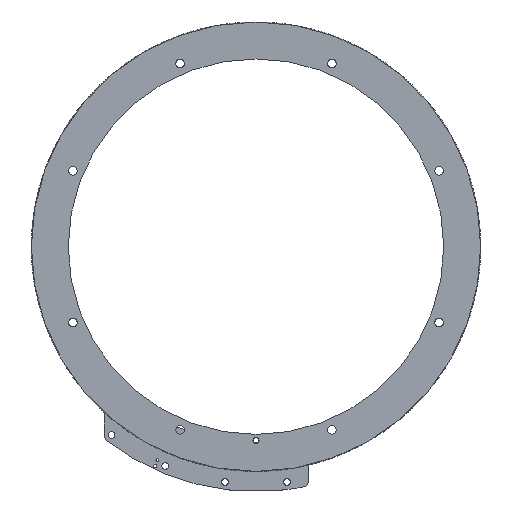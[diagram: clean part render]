
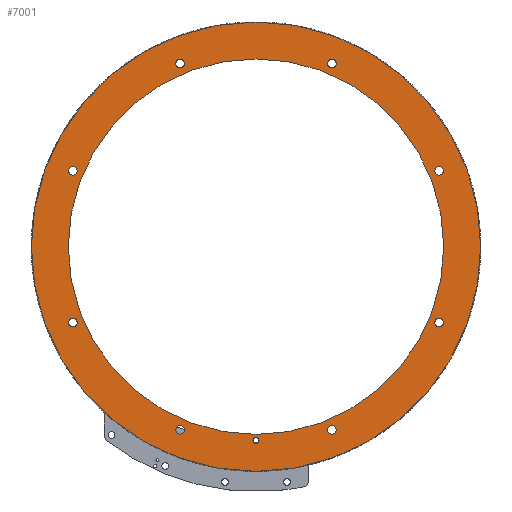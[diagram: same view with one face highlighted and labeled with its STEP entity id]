
A CAD part, front view. The second image highlights one B-rep face of the part: STEP entity #7001.
In plain terms, the highlighted planar face has unit normal (0, -1, 0).
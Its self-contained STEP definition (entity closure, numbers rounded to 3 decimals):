
#2=CARTESIAN_POINT('',(0.,0.,0.));
#3=DIRECTION('',(0.,1.,0.));
#4=DIRECTION('',(1.,0.,0.));
#5=AXIS2_PLACEMENT_3D('',#2,#3,#4);
#7=CARTESIAN_POINT('',(0.,0.,0.));
#8=DIRECTION('',(0.,1.,0.));
#9=DIRECTION('',(-1.,0.,0.));
#10=AXIS2_PLACEMENT_3D('',#7,#8,#9);
#12=CARTESIAN_POINT('',(0.,0.,0.));
#13=DIRECTION('',(0.,-1.,0.));
#14=DIRECTION('',(1.,0.,0.));
#15=AXIS2_PLACEMENT_3D('',#12,#13,#14);
#17=CARTESIAN_POINT('',(0.,0.,0.));
#18=DIRECTION('',(0.,-1.,0.));
#19=DIRECTION('',(-1.,0.,0.));
#20=AXIS2_PLACEMENT_3D('',#17,#18,#19);
#22=CARTESIAN_POINT('',(-60.976,0.,-25.257));
#23=DIRECTION('',(0.,1.,0.));
#24=DIRECTION('',(1.,0.,0.));
#25=AXIS2_PLACEMENT_3D('',#22,#23,#24);
#27=CARTESIAN_POINT('',(-60.976,0.,-25.257));
#28=DIRECTION('',(0.,1.,0.));
#29=DIRECTION('',(-1.,0.,0.));
#30=AXIS2_PLACEMENT_3D('',#27,#28,#29);
#32=CARTESIAN_POINT('',(25.257,0.,-60.976));
#33=DIRECTION('',(0.,1.,0.));
#34=DIRECTION('',(1.,0.,0.));
#35=AXIS2_PLACEMENT_3D('',#32,#33,#34);
#37=CARTESIAN_POINT('',(25.257,0.,-60.976));
#38=DIRECTION('',(0.,1.,0.));
#39=DIRECTION('',(-1.,0.,0.));
#40=AXIS2_PLACEMENT_3D('',#37,#38,#39);
#42=CARTESIAN_POINT('',(60.976,0.,25.257));
#43=DIRECTION('',(0.,1.,0.));
#44=DIRECTION('',(1.,0.,0.));
#45=AXIS2_PLACEMENT_3D('',#42,#43,#44);
#47=CARTESIAN_POINT('',(60.976,0.,25.257));
#48=DIRECTION('',(0.,1.,0.));
#49=DIRECTION('',(-1.,0.,0.));
#50=AXIS2_PLACEMENT_3D('',#47,#48,#49);
#52=CARTESIAN_POINT('',(-25.257,0.,60.976));
#53=DIRECTION('',(0.,1.,0.));
#54=DIRECTION('',(1.,0.,0.));
#55=AXIS2_PLACEMENT_3D('',#52,#53,#54);
#57=CARTESIAN_POINT('',(-25.257,0.,60.976));
#58=DIRECTION('',(0.,1.,0.));
#59=DIRECTION('',(-1.,0.,0.));
#60=AXIS2_PLACEMENT_3D('',#57,#58,#59);
#62=CARTESIAN_POINT('',(-25.257,0.,-60.976));
#63=DIRECTION('',(0.,1.,0.));
#64=DIRECTION('',(1.,0.,0.));
#65=AXIS2_PLACEMENT_3D('',#62,#63,#64);
#67=CARTESIAN_POINT('',(-25.257,0.,-60.976));
#68=DIRECTION('',(0.,1.,0.));
#69=DIRECTION('',(-1.,0.,0.));
#70=AXIS2_PLACEMENT_3D('',#67,#68,#69);
#72=CARTESIAN_POINT('',(-60.976,0.,25.257));
#73=DIRECTION('',(0.,1.,0.));
#74=DIRECTION('',(1.,0.,0.));
#75=AXIS2_PLACEMENT_3D('',#72,#73,#74);
#77=CARTESIAN_POINT('',(-60.976,0.,25.257));
#78=DIRECTION('',(0.,1.,0.));
#79=DIRECTION('',(-1.,0.,0.));
#80=AXIS2_PLACEMENT_3D('',#77,#78,#79);
#82=CARTESIAN_POINT('',(25.257,0.,60.976));
#83=DIRECTION('',(0.,1.,0.));
#84=DIRECTION('',(1.,0.,0.));
#85=AXIS2_PLACEMENT_3D('',#82,#83,#84);
#87=CARTESIAN_POINT('',(25.257,0.,60.976));
#88=DIRECTION('',(0.,1.,0.));
#89=DIRECTION('',(-1.,0.,0.));
#90=AXIS2_PLACEMENT_3D('',#87,#88,#89);
#92=CARTESIAN_POINT('',(60.976,0.,-25.257));
#93=DIRECTION('',(0.,1.,0.));
#94=DIRECTION('',(1.,0.,0.));
#95=AXIS2_PLACEMENT_3D('',#92,#93,#94);
#97=CARTESIAN_POINT('',(60.976,0.,-25.257));
#98=DIRECTION('',(0.,1.,0.));
#99=DIRECTION('',(-1.,0.,0.));
#100=AXIS2_PLACEMENT_3D('',#97,#98,#99);
#102=CARTESIAN_POINT('',(0.,0.,-64.5));
#103=DIRECTION('',(0.,1.,0.));
#104=DIRECTION('',(1.,0.,0.));
#105=AXIS2_PLACEMENT_3D('',#102,#103,#104);
#107=CARTESIAN_POINT('',(0.,0.,-64.5));
#108=DIRECTION('',(0.,1.,0.));
#109=DIRECTION('',(-1.,0.,0.));
#110=AXIS2_PLACEMENT_3D('',#107,#108,#109);
#5330=CARTESIAN_POINT('',(74.8,0.,0.));
#5331=CARTESIAN_POINT('',(-74.8,0.,0.));
#5332=VERTEX_POINT('',#5330);
#5333=VERTEX_POINT('',#5331);
#5334=CARTESIAN_POINT('',(62.505,0.,0.));
#5335=CARTESIAN_POINT('',(-62.505,0.,0.));
#5336=VERTEX_POINT('',#5334);
#5337=VERTEX_POINT('',#5335);
#5856=CARTESIAN_POINT('',(-59.526,0.,-25.257));
#5857=CARTESIAN_POINT('',(-62.426,0.,-25.257));
#5858=VERTEX_POINT('',#5856);
#5859=VERTEX_POINT('',#5857);
#5860=CARTESIAN_POINT('',(26.707,0.,-60.976));
#5861=CARTESIAN_POINT('',(23.807,0.,-60.976));
#5862=VERTEX_POINT('',#5860);
#5863=VERTEX_POINT('',#5861);
#5864=CARTESIAN_POINT('',(62.426,0.,25.257));
#5865=CARTESIAN_POINT('',(59.526,0.,25.257));
#5866=VERTEX_POINT('',#5864);
#5867=VERTEX_POINT('',#5865);
#5868=CARTESIAN_POINT('',(-23.807,0.,60.976));
#5869=CARTESIAN_POINT('',(-26.707,0.,60.976));
#5870=VERTEX_POINT('',#5868);
#5871=VERTEX_POINT('',#5869);
#6794=CARTESIAN_POINT('',(-23.807,0.,-60.976));
#6795=CARTESIAN_POINT('',(-26.707,0.,-60.976));
#6796=VERTEX_POINT('',#6794);
#6797=VERTEX_POINT('',#6795);
#6798=CARTESIAN_POINT('',(-59.526,0.,25.257));
#6799=CARTESIAN_POINT('',(-62.426,0.,25.257));
#6800=VERTEX_POINT('',#6798);
#6801=VERTEX_POINT('',#6799);
#6802=CARTESIAN_POINT('',(26.707,0.,60.976));
#6803=CARTESIAN_POINT('',(23.807,0.,60.976));
#6804=VERTEX_POINT('',#6802);
#6805=VERTEX_POINT('',#6803);
#6806=CARTESIAN_POINT('',(62.426,0.,-25.257));
#6807=CARTESIAN_POINT('',(59.526,0.,-25.257));
#6808=VERTEX_POINT('',#6806);
#6809=VERTEX_POINT('',#6807);
#6834=CARTESIAN_POINT('',(1.,0.,-64.5));
#6835=CARTESIAN_POINT('',(-1.,0.,-64.5));
#6836=VERTEX_POINT('',#6834);
#6837=VERTEX_POINT('',#6835);
#6930=CARTESIAN_POINT('',(0.,0.,0.));
#6931=DIRECTION('',(0.,1.,0.));
#6932=DIRECTION('',(1.,0.,0.));
#6933=AXIS2_PLACEMENT_3D('',#6930,#6931,#6932);
#6934=PLANE('',#6933);
#6936=ORIENTED_EDGE('',*,*,#6935,.T.);
#6938=ORIENTED_EDGE('',*,*,#6937,.T.);
#6939=EDGE_LOOP('',(#6936,#6938));
#6940=FACE_OUTER_BOUND('',#6939,.F.);
#6942=ORIENTED_EDGE('',*,*,#6941,.T.);
#6944=ORIENTED_EDGE('',*,*,#6943,.T.);
#6945=EDGE_LOOP('',(#6942,#6944));
#6946=FACE_BOUND('',#6945,.F.);
#6948=ORIENTED_EDGE('',*,*,#6947,.F.);
#6950=ORIENTED_EDGE('',*,*,#6949,.F.);
#6951=EDGE_LOOP('',(#6948,#6950));
#6952=FACE_BOUND('',#6951,.F.);
#6954=ORIENTED_EDGE('',*,*,#6953,.F.);
#6956=ORIENTED_EDGE('',*,*,#6955,.F.);
#6957=EDGE_LOOP('',(#6954,#6956));
#6958=FACE_BOUND('',#6957,.F.);
#6960=ORIENTED_EDGE('',*,*,#6959,.F.);
#6962=ORIENTED_EDGE('',*,*,#6961,.F.);
#6963=EDGE_LOOP('',(#6960,#6962));
#6964=FACE_BOUND('',#6963,.F.);
#6966=ORIENTED_EDGE('',*,*,#6965,.F.);
#6968=ORIENTED_EDGE('',*,*,#6967,.F.);
#6969=EDGE_LOOP('',(#6966,#6968));
#6970=FACE_BOUND('',#6969,.F.);
#6972=ORIENTED_EDGE('',*,*,#6971,.F.);
#6974=ORIENTED_EDGE('',*,*,#6973,.F.);
#6975=EDGE_LOOP('',(#6972,#6974));
#6976=FACE_BOUND('',#6975,.F.);
#6978=ORIENTED_EDGE('',*,*,#6977,.F.);
#6980=ORIENTED_EDGE('',*,*,#6979,.F.);
#6981=EDGE_LOOP('',(#6978,#6980));
#6982=FACE_BOUND('',#6981,.F.);
#6984=ORIENTED_EDGE('',*,*,#6983,.F.);
#6986=ORIENTED_EDGE('',*,*,#6985,.F.);
#6987=EDGE_LOOP('',(#6984,#6986));
#6988=FACE_BOUND('',#6987,.F.);
#6990=ORIENTED_EDGE('',*,*,#6989,.F.);
#6992=ORIENTED_EDGE('',*,*,#6991,.F.);
#6993=EDGE_LOOP('',(#6990,#6992));
#6994=FACE_BOUND('',#6993,.F.);
#6996=ORIENTED_EDGE('',*,*,#6995,.F.);
#6998=ORIENTED_EDGE('',*,*,#6997,.F.);
#6999=EDGE_LOOP('',(#6996,#6998));
#7000=FACE_BOUND('',#6999,.F.);
#7001=ADVANCED_FACE('',(#6940,#6946,#6952,#6958,#6964,#6970,#6976,#6982,#6988,
#6994,#7000),#6934,.F.);
#6=CIRCLE('',#5,74.8);
#11=CIRCLE('',#10,74.8);
#16=CIRCLE('',#15,62.505);
#21=CIRCLE('',#20,62.505);
#26=CIRCLE('',#25,1.45);
#31=CIRCLE('',#30,1.45);
#36=CIRCLE('',#35,1.45);
#41=CIRCLE('',#40,1.45);
#46=CIRCLE('',#45,1.45);
#51=CIRCLE('',#50,1.45);
#56=CIRCLE('',#55,1.45);
#61=CIRCLE('',#60,1.45);
#66=CIRCLE('',#65,1.45);
#71=CIRCLE('',#70,1.45);
#76=CIRCLE('',#75,1.45);
#81=CIRCLE('',#80,1.45);
#86=CIRCLE('',#85,1.45);
#91=CIRCLE('',#90,1.45);
#96=CIRCLE('',#95,1.45);
#101=CIRCLE('',#100,1.45);
#106=CIRCLE('',#105,1.);
#111=CIRCLE('',#110,1.);
#6935=EDGE_CURVE('',#5332,#5333,#6,.T.);
#6937=EDGE_CURVE('',#5333,#5332,#11,.T.);
#6941=EDGE_CURVE('',#5336,#5337,#16,.T.);
#6943=EDGE_CURVE('',#5337,#5336,#21,.T.);
#6947=EDGE_CURVE('',#5858,#5859,#26,.T.);
#6949=EDGE_CURVE('',#5859,#5858,#31,.T.);
#6953=EDGE_CURVE('',#5862,#5863,#36,.T.);
#6955=EDGE_CURVE('',#5863,#5862,#41,.T.);
#6959=EDGE_CURVE('',#5866,#5867,#46,.T.);
#6961=EDGE_CURVE('',#5867,#5866,#51,.T.);
#6965=EDGE_CURVE('',#5870,#5871,#56,.T.);
#6967=EDGE_CURVE('',#5871,#5870,#61,.T.);
#6971=EDGE_CURVE('',#6796,#6797,#66,.T.);
#6973=EDGE_CURVE('',#6797,#6796,#71,.T.);
#6977=EDGE_CURVE('',#6800,#6801,#76,.T.);
#6979=EDGE_CURVE('',#6801,#6800,#81,.T.);
#6983=EDGE_CURVE('',#6804,#6805,#86,.T.);
#6985=EDGE_CURVE('',#6805,#6804,#91,.T.);
#6989=EDGE_CURVE('',#6808,#6809,#96,.T.);
#6991=EDGE_CURVE('',#6809,#6808,#101,.T.);
#6995=EDGE_CURVE('',#6836,#6837,#106,.T.);
#6997=EDGE_CURVE('',#6837,#6836,#111,.T.);
